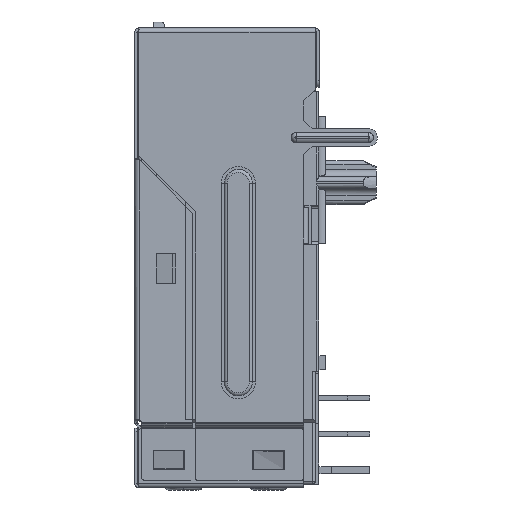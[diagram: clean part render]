
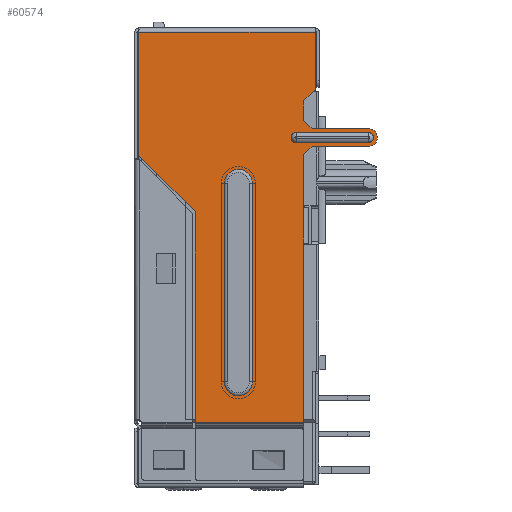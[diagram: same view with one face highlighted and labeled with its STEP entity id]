
A CAD part, left-side view. The second image highlights one B-rep face of the part: STEP entity #60574.
In plain terms, the highlighted planar face has unit normal (-1, 0, 0).
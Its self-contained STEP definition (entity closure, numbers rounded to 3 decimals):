
#2525=DIRECTION('',(0.,0.,1.));
#2526=VECTOR('',#2525,12.671);
#2527=CARTESIAN_POINT('',(-29.11,-11.7,-27.621));
#2528=LINE('',#2527,#2526);
#2572=DIRECTION('',(0.,0.,-1.));
#2573=VECTOR('',#2572,14.871);
#2574=CARTESIAN_POINT('',(-29.11,-4.021,-12.75));
#2575=LINE('',#2574,#2573);
#2593=DIRECTION('',(0.,-1.,0.));
#2594=VECTOR('',#2593,7.679);
#2595=CARTESIAN_POINT('',(-29.11,-4.021,-27.621));
#2596=LINE('',#2595,#2594);
#2601=DIRECTION('',(0.,0.707,0.707));
#2602=VECTOR('',#2601,5.657);
#2603=CARTESIAN_POINT('',(-29.11,-4.021,-12.75));
#2604=LINE('',#2603,#2602);
#2605=DIRECTION('',(0.,0.,1.));
#2606=VECTOR('',#2605,8.7);
#2607=CARTESIAN_POINT('',(-29.11,-0.021,-8.75));
#2608=LINE('',#2607,#2606);
#2609=DIRECTION('',(0.,0.707,-0.707));
#2610=VECTOR('',#2609,1.131);
#2611=CARTESIAN_POINT('',(-29.11,-12.5,-4.1));
#2612=LINE('',#2611,#2610);
#2613=DIRECTION('',(0.,-0.707,-0.707));
#2614=VECTOR('',#2613,0.811);
#2615=CARTESIAN_POINT('',(-29.11,-11.7,-6.301));
#2616=LINE('',#2615,#2614);
#2617=CARTESIAN_POINT('',(-29.11,-16.255,-7.5));
#2618=DIRECTION('',(1.,0.,0.));
#2619=DIRECTION('',(0.,0.,1.));
#2620=AXIS2_PLACEMENT_3D('',#2617,#2618,#2619);
#2622=CARTESIAN_POINT('',(-29.11,-16.255,-7.5));
#2623=DIRECTION('',(1.,0.,0.));
#2624=DIRECTION('',(0.,-1.,0.));
#2625=AXIS2_PLACEMENT_3D('',#2622,#2623,#2624);
#2627=DIRECTION('',(0.,0.707,-0.707));
#2628=VECTOR('',#2627,0.811);
#2629=CARTESIAN_POINT('',(-29.11,-12.274,-8.125));
#2630=LINE('',#2629,#2628);
#2631=CARTESIAN_POINT('',(-29.11,-7.067,-24.75));
#2632=DIRECTION('',(-1.,0.,0.));
#2633=DIRECTION('',(0.,1.,0.));
#2634=AXIS2_PLACEMENT_3D('',#2631,#2632,#2633);
#2636=CARTESIAN_POINT('',(-29.11,-7.067,-10.75));
#2637=DIRECTION('',(-1.,0.,0.));
#2638=DIRECTION('',(0.,-1.,0.));
#2639=AXIS2_PLACEMENT_3D('',#2636,#2637,#2638);
#2658=CARTESIAN_POINT('',(-29.11,-0.021,-0.05));
#6414=DIRECTION('',(0.,0.,1.));
#6415=VECTOR('',#6414,4.05);
#6416=CARTESIAN_POINT('',(-29.11,-12.5,-4.1));
#6417=LINE('',#6416,#6415);
#6427=DIRECTION('',(0.,0.,1.));
#6428=VECTOR('',#6427,1.401);
#6429=CARTESIAN_POINT('',(-29.11,-11.7,-6.301));
#6430=LINE('',#6429,#6428);
#6443=DIRECTION('',(0.,1.,0.));
#6444=VECTOR('',#6443,3.981);
#6445=CARTESIAN_POINT('',(-29.11,-16.255,-6.875));
#6446=LINE('',#6445,#6444);
#6463=DIRECTION('',(0.,-1.,0.));
#6464=VECTOR('',#6463,3.981);
#6465=CARTESIAN_POINT('',(-29.11,-12.274,-8.125));
#6466=LINE('',#6465,#6464);
#6487=DIRECTION('',(0.,0.,1.));
#6488=VECTOR('',#6487,3.751);
#6489=CARTESIAN_POINT('',(-29.11,-11.7,-12.45));
#6490=LINE('',#6489,#6488);
#6501=DIRECTION('',(0.,0.,1.));
#6502=VECTOR('',#6501,2.5);
#6503=CARTESIAN_POINT('',(-29.11,-11.7,-14.95));
#6504=LINE('',#6503,#6502);
#6513=DIRECTION('',(0.,1.,0.));
#6514=VECTOR('',#6513,12.479);
#6515=CARTESIAN_POINT('',(-29.11,-12.5,-0.05));
#6516=LINE('',#6515,#6514);
#32585=DIRECTION('',(0.,0.,1.));
#32586=VECTOR('',#32585,14.001);
#32587=CARTESIAN_POINT('',(-29.11,-6.067,-24.75));
#32588=LINE('',#32587,#32586);
#32603=DIRECTION('',(0.,0.,-1.));
#32604=VECTOR('',#32603,14.001);
#32605=CARTESIAN_POINT('',(-29.11,-8.067,-10.75));
#32606=LINE('',#32605,#32604);
#32607=DIRECTION('',(0.,-1.,0.));
#32608=VECTOR('',#32607,5.1);
#32609=CARTESIAN_POINT('',(-29.11,-11.155,-7.143));
#32610=LINE('',#32609,#32608);
#32611=DIRECTION('',(0.,1.,0.));
#32612=VECTOR('',#32611,5.1);
#32613=CARTESIAN_POINT('',(-29.11,-16.255,-7.857));
#32614=LINE('',#32613,#32612);
#32615=CARTESIAN_POINT('',(-29.11,-16.255,-7.5));
#32616=DIRECTION('',(1.,0.,0.));
#32617=DIRECTION('',(0.,0.,1.));
#32618=AXIS2_PLACEMENT_3D('',#32615,#32616,#32617);
#32625=CARTESIAN_POINT('',(-29.11,-11.155,-7.5));
#32626=DIRECTION('',(1.,0.,0.));
#32627=DIRECTION('',(0.,0.,-1.));
#32628=AXIS2_PLACEMENT_3D('',#32625,#32626,#32627);
#49471=VERTEX_POINT('',#2658);
#49535=CARTESIAN_POINT('',(-29.11,-11.7,-27.621));
#49536=VERTEX_POINT('',#49535);
#49537=CARTESIAN_POINT('',(-29.11,-11.7,-14.95));
#49538=VERTEX_POINT('',#49537);
#49553=CARTESIAN_POINT('',(-29.11,-4.021,-12.75));
#49554=VERTEX_POINT('',#49553);
#49555=CARTESIAN_POINT('',(-29.11,-4.021,-27.621));
#49556=VERTEX_POINT('',#49555);
#49559=CARTESIAN_POINT('',(-29.11,-0.021,-8.75));
#49560=VERTEX_POINT('',#49559);
#49561=CARTESIAN_POINT('',(-29.11,-12.5,-0.05));
#49562=VERTEX_POINT('',#49561);
#49563=CARTESIAN_POINT('',(-29.11,-12.5,-4.1));
#49564=VERTEX_POINT('',#49563);
#49565=CARTESIAN_POINT('',(-29.11,-11.7,-4.9));
#49566=VERTEX_POINT('',#49565);
#49567=CARTESIAN_POINT('',(-29.11,-11.7,-6.301));
#49568=VERTEX_POINT('',#49567);
#49569=CARTESIAN_POINT('',(-29.11,-12.274,-6.875));
#49570=VERTEX_POINT('',#49569);
#49571=CARTESIAN_POINT('',(-29.11,-16.255,-6.875));
#49572=VERTEX_POINT('',#49571);
#49573=CARTESIAN_POINT('',(-29.11,-16.88,-7.5));
#49574=VERTEX_POINT('',#49573);
#49575=CARTESIAN_POINT('',(-29.11,-16.255,-8.125));
#49576=VERTEX_POINT('',#49575);
#49577=CARTESIAN_POINT('',(-29.11,-12.274,-8.125));
#49578=VERTEX_POINT('',#49577);
#49579=CARTESIAN_POINT('',(-29.11,-11.7,-8.699));
#49580=VERTEX_POINT('',#49579);
#49581=CARTESIAN_POINT('',(-29.11,-11.7,-12.45));
#49582=VERTEX_POINT('',#49581);
#49583=CARTESIAN_POINT('',(-29.11,-6.067,-24.75));
#49584=CARTESIAN_POINT('',(-29.11,-8.067,-24.752));
#49585=VERTEX_POINT('',#49583);
#49586=VERTEX_POINT('',#49584);
#49587=CARTESIAN_POINT('',(-29.11,-8.067,-10.75));
#49588=VERTEX_POINT('',#49587);
#49589=CARTESIAN_POINT('',(-29.11,-6.067,-10.748));
#49590=VERTEX_POINT('',#49589);
#49591=CARTESIAN_POINT('',(-29.11,-11.155,-7.143));
#49592=CARTESIAN_POINT('',(-29.11,-16.255,-7.143));
#49593=VERTEX_POINT('',#49591);
#49594=VERTEX_POINT('',#49592);
#49595=CARTESIAN_POINT('',(-29.11,-11.155,-7.857));
#49596=VERTEX_POINT('',#49595);
#49597=CARTESIAN_POINT('',(-29.11,-16.255,-7.857));
#49598=VERTEX_POINT('',#49597);
#60516=CARTESIAN_POINT('',(-29.11,-8.452,-13.836));
#60517=DIRECTION('',(1.,0.,0.));
#60518=DIRECTION('',(0.,0.,-1.));
#60519=AXIS2_PLACEMENT_3D('',#60516,#60517,#60518);
#60520=PLANE('',#60519);
#60521=ORIENTED_EDGE('',*,*,#60426,.F.);
#60522=ORIENTED_EDGE('',*,*,#60508,.F.);
#60523=ORIENTED_EDGE('',*,*,#60467,.F.);
#60525=ORIENTED_EDGE('',*,*,#60524,.T.);
#60527=ORIENTED_EDGE('',*,*,#60526,.T.);
#60529=ORIENTED_EDGE('',*,*,#60528,.F.);
#60531=ORIENTED_EDGE('',*,*,#60530,.F.);
#60533=ORIENTED_EDGE('',*,*,#60532,.T.);
#60535=ORIENTED_EDGE('',*,*,#60534,.F.);
#60537=ORIENTED_EDGE('',*,*,#60536,.T.);
#60539=ORIENTED_EDGE('',*,*,#60538,.F.);
#60541=ORIENTED_EDGE('',*,*,#60540,.T.);
#60543=ORIENTED_EDGE('',*,*,#60542,.T.);
#60545=ORIENTED_EDGE('',*,*,#60544,.F.);
#60547=ORIENTED_EDGE('',*,*,#60546,.T.);
#60549=ORIENTED_EDGE('',*,*,#60548,.F.);
#60551=ORIENTED_EDGE('',*,*,#60550,.F.);
#60552=EDGE_LOOP('',(#60521,#60522,#60523,#60525,#60527,#60529,#60531,#60533,
#60535,#60537,#60539,#60541,#60543,#60545,#60547,#60549,#60551));
#60553=FACE_OUTER_BOUND('',#60552,.F.);
#60555=ORIENTED_EDGE('',*,*,#60554,.T.);
#60557=ORIENTED_EDGE('',*,*,#60556,.F.);
#60559=ORIENTED_EDGE('',*,*,#60558,.T.);
#60561=ORIENTED_EDGE('',*,*,#60560,.F.);
#60562=EDGE_LOOP('',(#60555,#60557,#60559,#60561));
#60563=FACE_BOUND('',#60562,.F.);
#60565=ORIENTED_EDGE('',*,*,#60564,.F.);
#60567=ORIENTED_EDGE('',*,*,#60566,.F.);
#60569=ORIENTED_EDGE('',*,*,#60568,.F.);
#60571=ORIENTED_EDGE('',*,*,#60570,.F.);
#60572=EDGE_LOOP('',(#60565,#60567,#60569,#60571));
#60573=FACE_BOUND('',#60572,.F.);
#60574=ADVANCED_FACE('',(#60553,#60563,#60573),#60520,.F.);
#2621=CIRCLE('',#2620,0.625);
#2626=CIRCLE('',#2625,0.625);
#2635=CIRCLE('',#2634,1.);
#2640=CIRCLE('',#2639,1.);
#32619=CIRCLE('',#32618,0.357);
#32629=CIRCLE('',#32628,0.357);
#60426=EDGE_CURVE('',#49536,#49538,#2528,.T.);
#60467=EDGE_CURVE('',#49554,#49556,#2575,.T.);
#60508=EDGE_CURVE('',#49556,#49536,#2596,.T.);
#60524=EDGE_CURVE('',#49554,#49560,#2604,.T.);
#60526=EDGE_CURVE('',#49560,#49471,#2608,.T.);
#60528=EDGE_CURVE('',#49562,#49471,#6516,.T.);
#60530=EDGE_CURVE('',#49564,#49562,#6417,.T.);
#60532=EDGE_CURVE('',#49564,#49566,#2612,.T.);
#60534=EDGE_CURVE('',#49568,#49566,#6430,.T.);
#60536=EDGE_CURVE('',#49568,#49570,#2616,.T.);
#60538=EDGE_CURVE('',#49572,#49570,#6446,.T.);
#60540=EDGE_CURVE('',#49572,#49574,#2621,.T.);
#60542=EDGE_CURVE('',#49574,#49576,#2626,.T.);
#60544=EDGE_CURVE('',#49578,#49576,#6466,.T.);
#60546=EDGE_CURVE('',#49578,#49580,#2630,.T.);
#60548=EDGE_CURVE('',#49582,#49580,#6490,.T.);
#60550=EDGE_CURVE('',#49538,#49582,#6504,.T.);
#60554=EDGE_CURVE('',#49585,#49586,#2635,.T.);
#60556=EDGE_CURVE('',#49588,#49586,#32606,.T.);
#60558=EDGE_CURVE('',#49588,#49590,#2640,.T.);
#60560=EDGE_CURVE('',#49585,#49590,#32588,.T.);
#60564=EDGE_CURVE('',#49593,#49594,#32610,.T.);
#60566=EDGE_CURVE('',#49596,#49593,#32629,.T.);
#60568=EDGE_CURVE('',#49598,#49596,#32614,.T.);
#60570=EDGE_CURVE('',#49594,#49598,#32619,.T.);
